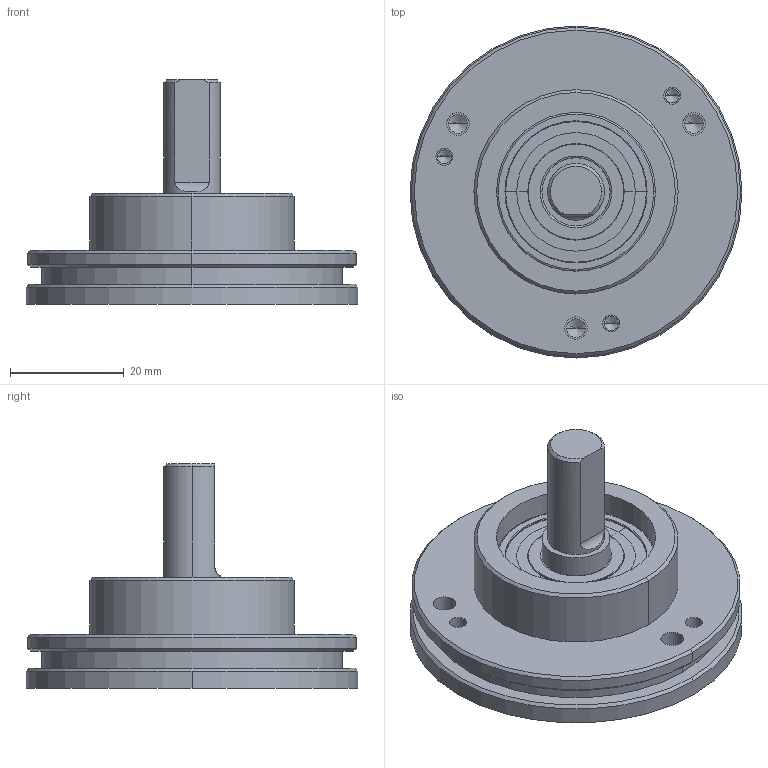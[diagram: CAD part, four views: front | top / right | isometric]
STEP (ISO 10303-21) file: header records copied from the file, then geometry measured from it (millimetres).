
FILE_DESCRIPTION (( 'STEP AP203' ), '1' );
FILE_NAME ('MCD-L100-Q5B-N.STEP', '2013-04-11T10:03:13', ( '' ), ( '' ), 'SwSTEP 2.0', 'SolidWorks 2006104', '' );
FILE_SCHEMA (( 'CONFIG_CONTROL_DESIGN' ));
Length unit declared in the file: millimetre
Products named in the file (1): MCD-L100-Q5B-N
Bounding box: 58.5 x 58.5 x 39.5 mm (x, y, z)
Volume: 29442.2 mm3; surface area: 15713.4 mm2
Topology: 4 solids, 5 shells, 163 faces, 341 edges, 196 vertices
Faces by surface type: cylinder 69, torus 36, cone 33, plane 25
Entity records: 4401 total; most frequent: DIRECTION 876, CARTESIAN_POINT 726, ORIENTED_EDGE 658, AXIS2_PLACEMENT_3D 386, EDGE_CURVE 329, CIRCLE 222, VERTEX_POINT 196, EDGE_LOOP 191
